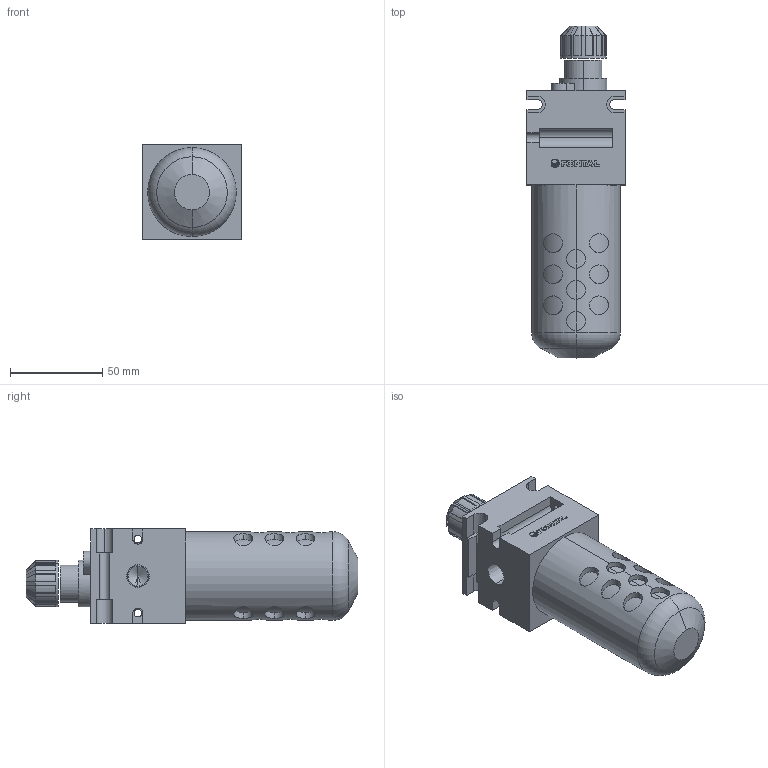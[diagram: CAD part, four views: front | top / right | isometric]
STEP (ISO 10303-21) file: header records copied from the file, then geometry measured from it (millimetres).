
FILE_DESCRIPTION (( 'STEP AP203' ), '1' );
FILE_NAME ('L55-02#.STEP', '2016-01-14T18:56:29', ( '' ), ( '' ), 'SwSTEP 2.0', 'SolidWorks 2014', '' );
FILE_SCHEMA (( 'CONFIG_CONTROL_DESIGN' ));
Length unit declared in the file: millimetre
Products named in the file (8): F55-2; L508-5; L45-1; L55-02#; F55; F45-MARK; F55-1; L45-2
Assembly tree (7 placements, depth 3):
  L55-02#
    F55
      F55-1
      F55-2
      F45-MARK
    L45-2
    L508-5
    L45-1
Bounding box: 53 x 179.5 x 51.12 mm (x, y, z)
Volume: 289028.6 mm3; surface area: 44685.1 mm2
Topology: 12 solids, 12 shells, 350 faces, 919 edges, 608 vertices
Faces by surface type: plane 191, cylinder 127, cone 22, bspline 8, torus 2
Entity records: 14329 total; most frequent: CARTESIAN_POINT 4976, ORIENTED_EDGE 1830, DIRECTION 1655, EDGE_CURVE 915, VERTEX_POINT 608, VECTOR 593, LINE 593, AXIS2_PLACEMENT_3D 531
